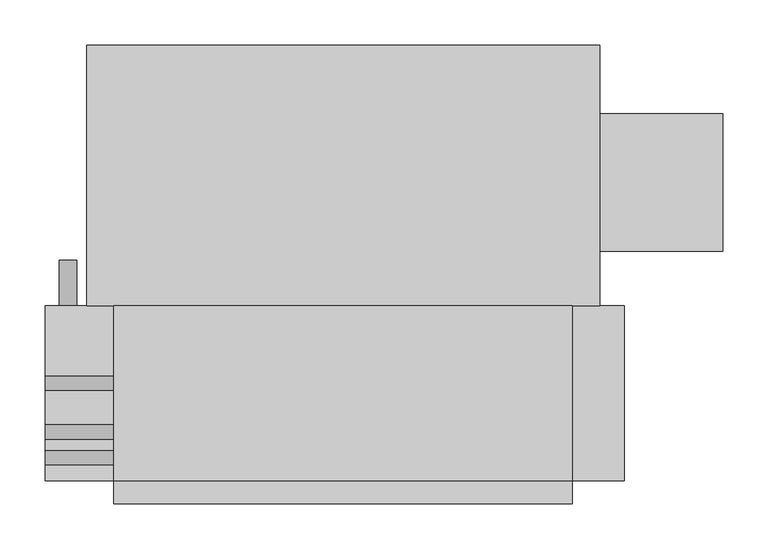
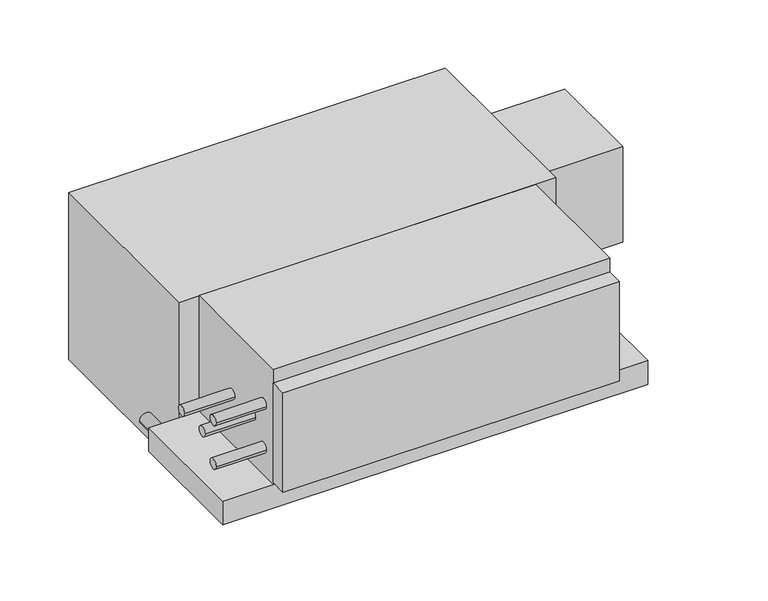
"""IFC4 building model written with IfcOpenShell, lengths in millimetres: proxy geometry, Concealed_Horizontal_Fan_Coil_Unit_With_Plenum_-_42CEA_-_CARRIER_-_4-Pipe_LH_2022 : Size 03 - 277v/60Hz/1Ph - 4/1 Coil."""

from ifc_helpers import new_model, si_unit, point, frame, frame_2d, origin, place, context, project, spatial, polyline, circle_curve, trimmed, segment, composite_curve, outline, extrude, source, transform, mapped, element, save


def mechanical_equipment_dfb2fcc3(model_context):
    return source(origin(), model_context, "Body", "SweptSolid", [
        extrude(outline(composite_curve([segment(trimmed(circle_curve(frame_2d((-209.55, -152.4)), 9.525), [point((-209.55, -161.925))], [point((-209.55, -142.875))], False, "CARTESIAN"), True, "CONTINUOUS"), segment(trimmed(circle_curve(frame_2d((-209.55, -152.4)), 9.525), [point((-209.55, -142.875))], [point((-209.55, -161.925))], False, "CARTESIAN"), True, "CONTINUOUS")], self_intersect=False)), frame((0.0, -141.2875, 0.0), z_axis=(0.0, 1.0, 0.0), x_axis=(0.0, 0.0, 1.0)), (0.0, 0.0, 1.0), 50.8),
        extrude(outline(composite_curve([segment(trimmed(circle_curve(frame_2d((-309.5625, -69.85)), 7.9375), [point((-301.625, -69.85))], [point((-317.5, -69.85))], False, "CARTESIAN"), True, "CONTINUOUS"), segment(trimmed(circle_curve(frame_2d((-309.5625, -69.85)), 7.9375), [point((-317.5, -69.85))], [point((-301.625, -69.85))], False, "CARTESIAN"), True, "CONTINUOUS")], self_intersect=False)), frame((-177.8, 0.0, 0.0), z_axis=(1.0, 0.0, 0.0), x_axis=(0.0, 1.0, 0.0)), (0.0, 0.0, 1.0), 76.2),
        extrude(outline(composite_curve([segment(trimmed(circle_curve(frame_2d((-309.5625, -139.7)), 7.9375), [point((-301.625, -139.7))], [point((-317.5, -139.7))], False, "CARTESIAN"), True, "CONTINUOUS"), segment(trimmed(circle_curve(frame_2d((-309.5625, -139.7)), 7.9375), [point((-317.5, -139.7))], [point((-301.625, -139.7))], False, "CARTESIAN"), True, "CONTINUOUS")], self_intersect=False)), frame((-177.8, 0.0, 0.0), z_axis=(1.0, 0.0, 0.0), x_axis=(0.0, 1.0, 0.0)), (0.0, 0.0, 1.0), 76.2),
        extrude(outline(composite_curve([segment(trimmed(circle_curve(frame_2d((-227.0125, -104.775)), 7.9375), [point((-219.075, -104.775))], [point((-234.95, -104.775))], False, "CARTESIAN"), True, "CONTINUOUS"), segment(trimmed(circle_curve(frame_2d((-227.0125, -104.775)), 7.9375), [point((-234.95, -104.775))], [point((-219.075, -104.775))], False, "CARTESIAN"), True, "CONTINUOUS")], self_intersect=False)), frame((-177.8, 0.0, 0.0), z_axis=(1.0, 0.0, 0.0), x_axis=(0.0, 1.0, 0.0)), (0.0, 0.0, 1.0), 76.2),
        extrude(outline(composite_curve([segment(trimmed(circle_curve(frame_2d((-280.9875, -104.775)), 7.9375), [point((-273.05, -104.775))], [point((-288.925, -104.775))], False, "CARTESIAN"), True, "CONTINUOUS"), segment(trimmed(circle_curve(frame_2d((-280.9875, -104.775)), 7.9375), [point((-288.925, -104.775))], [point((-273.05, -104.775))], False, "CARTESIAN"), True, "CONTINUOUS")], self_intersect=False)), frame((-177.8, 0.0, 0.0), z_axis=(1.0, 0.0, 0.0), x_axis=(0.0, 1.0, 0.0)), (0.0, 0.0, 1.0), 76.2),
        extrude(outline(polyline([(406.4, -334.9625), (406.4, -360.3625), (-101.6, -360.3625), (-101.6, -334.9625), (406.4, -334.9625)])), frame((0.0, 0.0, -180.975), z_axis=(0.0, 0.0, 1.0), x_axis=(1.0, 0.0, 0.0)), (0.0, 0.0, 1.0), 158.75),
        extrude(outline(polyline([(406.4, -334.9625), (-101.6, -334.9625), (-101.6, -141.2875), (406.4, -141.2875), (406.4, -334.9625)])), frame((0.0, 0.0, -184.15), z_axis=(0.0, 0.0, 1.0), x_axis=(1.0, 0.0, 0.0)), (0.0, 0.0, 1.0), 184.15),
        extrude(outline(polyline([(463.55, -141.2875), (463.55, -334.9625), (-177.8, -334.9625), (-177.8, -141.2875), (463.55, -141.2875)])), frame((0.0, 0.0, -222.25), z_axis=(0.0, 0.0, 1.0), x_axis=(1.0, 0.0, 0.0)), (0.0, 0.0, 1.0), 38.1),
        extrude(outline(polyline([(573.0875, 71.4375), (573.0875, -80.9625), (436.5625, -80.9625), (436.5625, 71.4375), (573.0875, 71.4375)])), frame((0.0, 0.0, -187.325), z_axis=(0.0, 0.0, 1.0), x_axis=(1.0, 0.0, 0.0)), (0.0, 0.0, 1.0), 152.4),
        extrude(outline(polyline([(-131.7625, 147.6375), (436.5625, 147.6375), (436.5625, -141.2875), (-131.7625, -141.2875), (-131.7625, 147.6375)])), frame((0.0, 0.0, -266.7), z_axis=(0.0, 0.0, 1.0), x_axis=(1.0, 0.0, 0.0)), (0.0, 0.0, 1.0), 266.7),
    ])


if __name__ == "__main__":
    model = new_model("IFC4")
    model_context = context("Model", 3, world=origin())
    ifc_project = project(units=[si_unit("LENGTHUNIT", "METRE", prefix="MILLI")], contexts=[model_context])
    site = spatial("IfcSite", under=ifc_project)
    building = spatial("IfcBuilding", under=site)
    placement = place(None, origin())
    mechanical_equipment_shape = mechanical_equipment_dfb2fcc3(model_context)
    element("IfcBuildingElementProxy", 1, Name="Concealed_Horizontal_Fan_Coil_Unit_With_Plenum_-_42CEA_-_CARRIER_-_4-Pipe_LH_2022 : Size 03 - 277v/60Hz/1Ph - 4/1 Coil", ObjectType="Concealed_Horizontal_Fan_Coil_Unit_With_Plenum_-_42CEA_-_CARRIER_-_4-Pipe_LH_2022 : Size 03 - 277v/60Hz/1Ph - 4/1 Coil", at=placement, inside=building, context=model_context, shape_type="MappedRepresentation", body=[
        mapped(mechanical_equipment_shape, transform((0.0, 0.0, 0.0), x_axis=(1.0, 0.0, 0.0), y_axis=(0.0, 1.0, 0.0), z_axis=(0.0, 0.0, 1.0))),
    ])
    save(model, "model.ifc")
